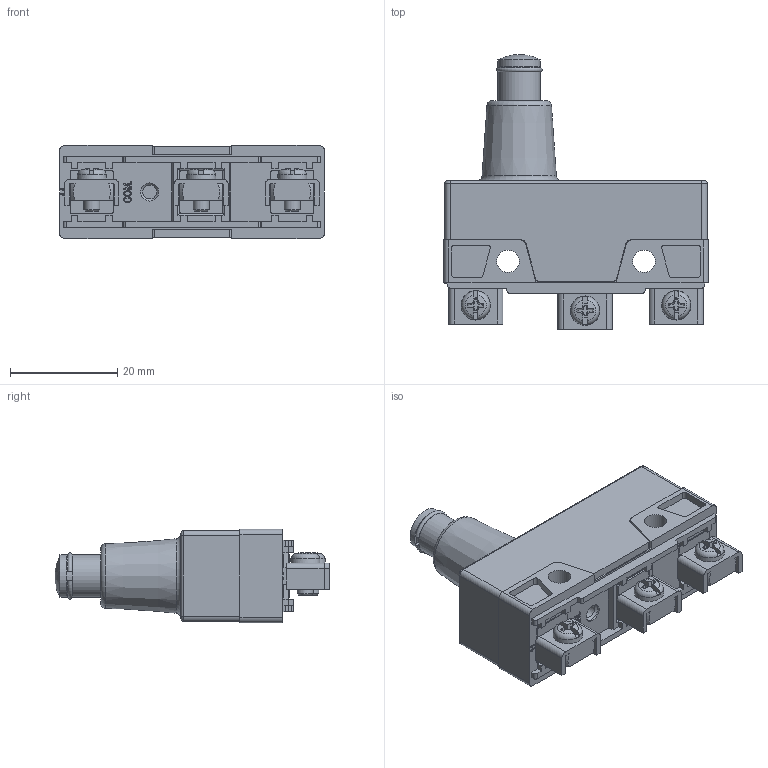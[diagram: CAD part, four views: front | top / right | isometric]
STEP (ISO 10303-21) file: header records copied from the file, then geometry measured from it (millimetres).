
FILE_DESCRIPTION(('Microrutor Basico Botao c/ Grande Percurso Suplementar Terminal Frontal'),'2;1');
FILE_NAME('E:\WorkFolder\Bibl\3DWeb\Serie\M3\M3B9_3D.stp','2011-02-28T09:07:29',('DIE'),('KAP'),'Autodesk Inventor 2011','Autodesk Inventor 2011','Direitos reservados. Proibido reproducao, cedencia ou revelacao de conteudo a terceiros, salvo com autorizacao.');
FILE_SCHEMA(('AUTOMOTIVE_DESIGN { 1 0 10303 214 1 1 1 1 }'));
Length unit declared in the file: millimetre
Products named in the file (4): M3B9_3D; M3_Base_semTerm; M3_Tampa_B; M3_TerminaisBase9
Assembly tree (3 placements, depth 2):
  M3B9_3D
    M3_Base_semTerm
    M3_Tampa_B
    M3_TerminaisBase9
Bounding box: 49.4 x 51.29 x 17.4 mm (x, y, z)
Volume: 18889.3 mm3; surface area: 10181 mm2
Topology: 12 solids, 15 shells, 601 faces, 1619 edges, 1072 vertices
Faces by surface type: plane 425, cylinder 102, cone 32, bspline 28, torus 7, sphere 7
Full cylindrical faces by diameter (mm): 2.6 x1, 2.729 x3, 3 x6, 3.2 x3, 3.4 x1, 4.2 x2, 4.8 x1, 7 x1, 7.937 x2
Entity records: 19130 total; most frequent: CARTESIAN_POINT 3843, ORIENTED_EDGE 3122, DIRECTION 2947, EDGE_CURVE 1561, VECTOR 1131, LINE 1131, VERTEX_POINT 1051, AXIS2_PLACEMENT_3D 908
